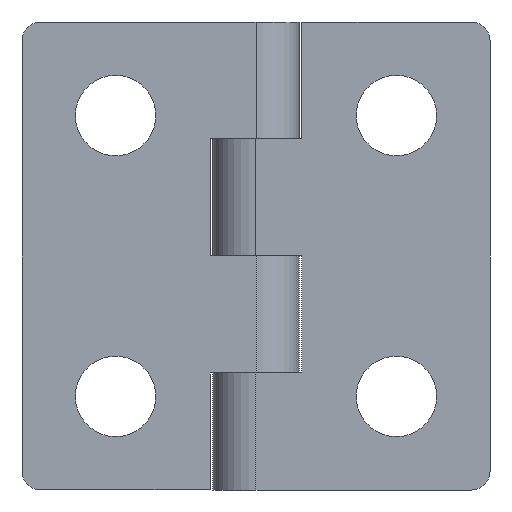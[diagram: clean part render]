
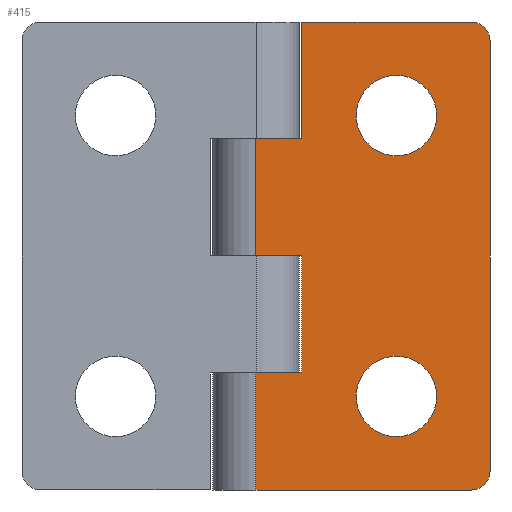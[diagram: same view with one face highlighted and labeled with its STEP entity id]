
A CAD part, front view. The second image highlights one B-rep face of the part: STEP entity #415.
In plain terms, the highlighted planar face has unit normal (0, -1, 0).
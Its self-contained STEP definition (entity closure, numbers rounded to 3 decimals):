
#14 = CARTESIAN_POINT ( 'NONE',  ( 15., 0., -15. ) ) ;
#18 = CARTESIAN_POINT ( 'NONE',  ( 0., 0., 12.5 ) ) ;
#29 = DIRECTION ( 'NONE',  ( 0., 0., -1. ) ) ;
#38 = EDGE_CURVE ( 'NONE', #966, #1338, #958, .T. ) ;
#52 = EDGE_LOOP ( 'NONE', ( #1149, #90 ) ) ;
#56 = CARTESIAN_POINT ( 'NONE',  ( 25., 0., -23. ) ) ;
#58 = EDGE_CURVE ( 'NONE', #1268, #1334, #1291, .T. ) ;
#69 = VECTOR ( 'NONE', #478, 1000. ) ;
#76 = EDGE_CURVE ( 'NONE', #900, #1338, #93, .T. ) ;
#90 = ORIENTED_EDGE ( 'NONE', *, *, #435, .T. ) ;
#93 = CIRCLE ( 'NONE', #1193, 2. ) ;
#102 = DIRECTION ( 'NONE',  ( 1., 0., 0. ) ) ;
#103 = FACE_BOUND ( 'NONE', #52, .T. ) ;
#136 = ORIENTED_EDGE ( 'NONE', *, *, #58, .T. ) ;
#142 = VECTOR ( 'NONE', #665, 1000. ) ;
#154 = LINE ( 'NONE', #671, #700 ) ;
#163 = DIRECTION ( 'NONE',  ( 0., 1., 0. ) ) ;
#166 = VECTOR ( 'NONE', #471, 1000. ) ;
#169 = ORIENTED_EDGE ( 'NONE', *, *, #693, .T. ) ;
#176 = CARTESIAN_POINT ( 'NONE',  ( 23., 0., -25. ) ) ;
#194 = VERTEX_POINT ( 'NONE', #1344 ) ;
#200 = EDGE_CURVE ( 'NONE', #844, #1264, #1132, .T. ) ;
#212 = DIRECTION ( 'NONE',  ( 0., 0., 1. ) ) ;
#216 = CARTESIAN_POINT ( 'NONE',  ( 0., 0., 0. ) ) ;
#218 = DIRECTION ( 'NONE',  ( 0., -1., 0. ) ) ;
#223 = FACE_BOUND ( 'NONE', #722, .T. ) ;
#232 = LINE ( 'NONE', #557, #641 ) ;
#243 = CIRCLE ( 'NONE', #1390, 2. ) ;
#248 = AXIS2_PLACEMENT_3D ( 'NONE', #536, #758, #212 ) ;
#303 = ORIENTED_EDGE ( 'NONE', *, *, #804, .T. ) ;
#329 = CARTESIAN_POINT ( 'NONE',  ( 0., 0., -25. ) ) ;
#330 = CARTESIAN_POINT ( 'NONE',  ( 0., 0., 25. ) ) ;
#342 = PLANE ( 'NONE',  #1054 ) ;
#351 = CARTESIAN_POINT ( 'NONE',  ( 4.9, 0., 12.5 ) ) ;
#352 = ORIENTED_EDGE ( 'NONE', *, *, #1388, .T. ) ;
#356 = DIRECTION ( 'NONE',  ( 0., 0., -1. ) ) ;
#385 = CARTESIAN_POINT ( 'NONE',  ( 0., 0., -12.5 ) ) ;
#400 = ORIENTED_EDGE ( 'NONE', *, *, #1249, .T. ) ;
#415 = ADVANCED_FACE ( 'NONE', ( #103, #223, #646 ), #342, .F. ) ;
#418 = ORIENTED_EDGE ( 'NONE', *, *, #539, .T. ) ;
#420 = ORIENTED_EDGE ( 'NONE', *, *, #446, .T. ) ;
#421 = DIRECTION ( 'NONE',  ( 1., 0., 0. ) ) ;
#432 = ORIENTED_EDGE ( 'NONE', *, *, #200, .F. ) ;
#435 = EDGE_CURVE ( 'NONE', #906, #1136, #778, .T. ) ;
#438 = CARTESIAN_POINT ( 'NONE',  ( -4.6, 0., 0. ) ) ;
#446 = EDGE_CURVE ( 'NONE', #1363, #900, #664, .T. ) ;
#471 = DIRECTION ( 'NONE',  ( 1., 0., 0. ) ) ;
#472 = EDGE_CURVE ( 'NONE', #1136, #906, #1077, .T. ) ;
#478 = DIRECTION ( 'NONE',  ( -1., 0., 0. ) ) ;
#479 = CARTESIAN_POINT ( 'NONE',  ( 0., 0., 25. ) ) ;
#495 = AXIS2_PLACEMENT_3D ( 'NONE', #1124, #163, #1015 ) ;
#501 = VERTEX_POINT ( 'NONE', #859 ) ;
#505 = EDGE_CURVE ( 'NONE', #976, #1363, #232, .T. ) ;
#530 = DIRECTION ( 'NONE',  ( 0., 0., 1. ) ) ;
#536 = CARTESIAN_POINT ( 'NONE',  ( 15., 0., -15. ) ) ;
#539 = EDGE_CURVE ( 'NONE', #774, #976, #982, .T. ) ;
#545 = CARTESIAN_POINT ( 'NONE',  ( 0., 0., -25. ) ) ;
#557 = CARTESIAN_POINT ( 'NONE',  ( 0., 0., 25. ) ) ;
#561 = DIRECTION ( 'NONE',  ( 0., 0., 1. ) ) ;
#578 = EDGE_LOOP ( 'NONE', ( #1324, #1277, #136, #352, #169, #418, #669, #420, #1391, #1201, #400, #432 ) ) ;
#586 = VERTEX_POINT ( 'NONE', #351 ) ;
#588 = LINE ( 'NONE', #697, #69 ) ;
#615 = EDGE_CURVE ( 'NONE', #844, #586, #154, .T. ) ;
#627 = VECTOR ( 'NONE', #356, 1000. ) ;
#628 = CARTESIAN_POINT ( 'NONE',  ( 15., 0., 19.3 ) ) ;
#641 = VECTOR ( 'NONE', #1094, 1000. ) ;
#646 = FACE_OUTER_BOUND ( 'NONE', #578, .T. ) ;
#650 = CIRCLE ( 'NONE', #495, 4.3 ) ;
#656 = CARTESIAN_POINT ( 'NONE',  ( -4.6, 0., -12.5 ) ) ;
#664 = LINE ( 'NONE', #329, #959 ) ;
#665 = DIRECTION ( 'NONE',  ( 0., 0., -1. ) ) ;
#669 = ORIENTED_EDGE ( 'NONE', *, *, #505, .T. ) ;
#671 = CARTESIAN_POINT ( 'NONE',  ( 4.9, 0., 25. ) ) ;
#693 = EDGE_CURVE ( 'NONE', #194, #774, #1116, .T. ) ;
#697 = CARTESIAN_POINT ( 'NONE',  ( -4.6, 0., 12.5 ) ) ;
#700 = VECTOR ( 'NONE', #29, 1000. ) ;
#722 = EDGE_LOOP ( 'NONE', ( #303, #1072 ) ) ;
#741 = DIRECTION ( 'NONE',  ( 0., 0., 1. ) ) ;
#742 = DIRECTION ( 'NONE',  ( 0., 0., -1. ) ) ;
#754 = AXIS2_PLACEMENT_3D ( 'NONE', #14, #975, #741 ) ;
#758 = DIRECTION ( 'NONE',  ( 0., 1., 0. ) ) ;
#774 = VERTEX_POINT ( 'NONE', #1207 ) ;
#776 = DIRECTION ( 'NONE',  ( 0., 1., 0. ) ) ;
#778 = CIRCLE ( 'NONE', #754, 4.3 ) ;
#784 = EDGE_CURVE ( 'NONE', #586, #1268, #588, .T. ) ;
#798 = CIRCLE ( 'NONE', #890, 4.3 ) ;
#804 = EDGE_CURVE ( 'NONE', #1082, #501, #650, .T. ) ;
#844 = VERTEX_POINT ( 'NONE', #1369 ) ;
#859 = CARTESIAN_POINT ( 'NONE',  ( 15., 0., 10.7 ) ) ;
#890 = AXIS2_PLACEMENT_3D ( 'NONE', #1316, #776, #1212 ) ;
#891 = CARTESIAN_POINT ( 'NONE',  ( 23., 0., 23. ) ) ;
#894 = CARTESIAN_POINT ( 'NONE',  ( 4.9, 0., 0. ) ) ;
#900 = VERTEX_POINT ( 'NONE', #176 ) ;
#906 = VERTEX_POINT ( 'NONE', #926 ) ;
#926 = CARTESIAN_POINT ( 'NONE',  ( 15., 0., -19.3 ) ) ;
#933 = CARTESIAN_POINT ( 'NONE',  ( 25., 0., 23. ) ) ;
#958 = LINE ( 'NONE', #1397, #142 ) ;
#959 = VECTOR ( 'NONE', #421, 1000. ) ;
#966 = VERTEX_POINT ( 'NONE', #933 ) ;
#970 = DIRECTION ( 'NONE',  ( 0., 1., 0. ) ) ;
#975 = DIRECTION ( 'NONE',  ( 0., 1., 0. ) ) ;
#976 = VERTEX_POINT ( 'NONE', #385 ) ;
#978 = CARTESIAN_POINT ( 'NONE',  ( 23., 0., 25. ) ) ;
#982 = LINE ( 'NONE', #656, #1184 ) ;
#1015 = DIRECTION ( 'NONE',  ( 0., 0., 1. ) ) ;
#1018 = VECTOR ( 'NONE', #102, 1000. ) ;
#1054 = AXIS2_PLACEMENT_3D ( 'NONE', #1303, #970, #530 ) ;
#1068 = CARTESIAN_POINT ( 'NONE',  ( 15., 0., -10.7 ) ) ;
#1072 = ORIENTED_EDGE ( 'NONE', *, *, #1285, .T. ) ;
#1077 = CIRCLE ( 'NONE', #248, 4.3 ) ;
#1082 = VERTEX_POINT ( 'NONE', #628 ) ;
#1094 = DIRECTION ( 'NONE',  ( 0., 0., -1. ) ) ;
#1116 = LINE ( 'NONE', #894, #627 ) ;
#1124 = CARTESIAN_POINT ( 'NONE',  ( 15., 0., 15. ) ) ;
#1132 = LINE ( 'NONE', #479, #166 ) ;
#1136 = VERTEX_POINT ( 'NONE', #1068 ) ;
#1149 = ORIENTED_EDGE ( 'NONE', *, *, #472, .T. ) ;
#1151 = VECTOR ( 'NONE', #742, 1000. ) ;
#1177 = CARTESIAN_POINT ( 'NONE',  ( 23., 0., -23. ) ) ;
#1181 = LINE ( 'NONE', #438, #1018 ) ;
#1184 = VECTOR ( 'NONE', #1297, 1000. ) ;
#1193 = AXIS2_PLACEMENT_3D ( 'NONE', #1177, #218, #1340 ) ;
#1201 = ORIENTED_EDGE ( 'NONE', *, *, #38, .F. ) ;
#1207 = CARTESIAN_POINT ( 'NONE',  ( 4.9, 0., -12.5 ) ) ;
#1212 = DIRECTION ( 'NONE',  ( 0., 0., 1. ) ) ;
#1249 = EDGE_CURVE ( 'NONE', #966, #1264, #243, .T. ) ;
#1264 = VERTEX_POINT ( 'NONE', #978 ) ;
#1268 = VERTEX_POINT ( 'NONE', #18 ) ;
#1277 = ORIENTED_EDGE ( 'NONE', *, *, #784, .T. ) ;
#1285 = EDGE_CURVE ( 'NONE', #501, #1082, #798, .T. ) ;
#1291 = LINE ( 'NONE', #330, #1151 ) ;
#1297 = DIRECTION ( 'NONE',  ( -1., 0., 0. ) ) ;
#1303 = CARTESIAN_POINT ( 'NONE',  ( 0., 0., 25. ) ) ;
#1316 = CARTESIAN_POINT ( 'NONE',  ( 15., 0., 15. ) ) ;
#1324 = ORIENTED_EDGE ( 'NONE', *, *, #615, .T. ) ;
#1329 = DIRECTION ( 'NONE',  ( 0., -1., 0. ) ) ;
#1334 = VERTEX_POINT ( 'NONE', #216 ) ;
#1338 = VERTEX_POINT ( 'NONE', #56 ) ;
#1340 = DIRECTION ( 'NONE',  ( 0., 0., 1. ) ) ;
#1344 = CARTESIAN_POINT ( 'NONE',  ( 4.9, 0., 0. ) ) ;
#1363 = VERTEX_POINT ( 'NONE', #545 ) ;
#1369 = CARTESIAN_POINT ( 'NONE',  ( 4.9, 0., 25. ) ) ;
#1388 = EDGE_CURVE ( 'NONE', #1334, #194, #1181, .T. ) ;
#1390 = AXIS2_PLACEMENT_3D ( 'NONE', #891, #1329, #561 ) ;
#1391 = ORIENTED_EDGE ( 'NONE', *, *, #76, .T. ) ;
#1397 = CARTESIAN_POINT ( 'NONE',  ( 25., 0., 25. ) ) ;
